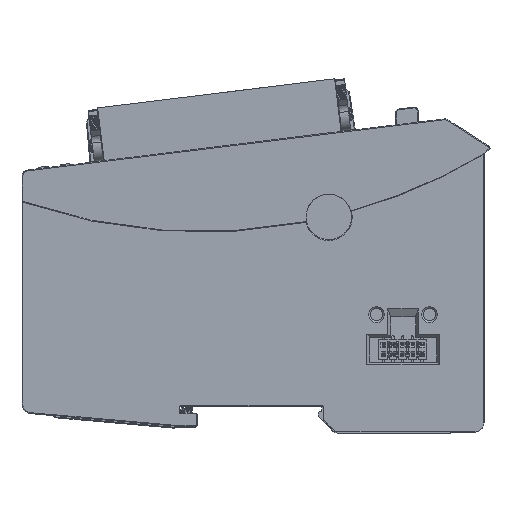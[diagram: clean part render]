
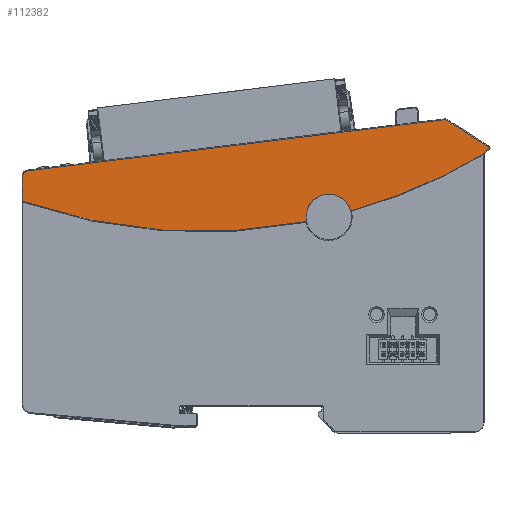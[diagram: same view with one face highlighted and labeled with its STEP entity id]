
A CAD part, top view. The second image highlights one B-rep face of the part: STEP entity #112382.
In plain terms, the highlighted planar face has unit normal (0, 0, 1).
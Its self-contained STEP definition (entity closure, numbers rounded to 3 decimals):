
#112203=AXIS2_PLACEMENT_3D('Circle Axis2P3D',#112201,#112202,$) ;
#112227=AXIS2_PLACEMENT_3D('Circle Axis2P3D',#112225,#112226,$) ;
#112240=AXIS2_PLACEMENT_3D('Plane Axis2P3D',#112237,#112238,#112239) ;
#112244=AXIS2_PLACEMENT_3D('Circle Axis2P3D',#112242,#112243,$) ;
#112253=AXIS2_PLACEMENT_3D('Circle Axis2P3D',#112251,#112252,$) ;
#112286=AXIS2_PLACEMENT_3D('Circle Axis2P3D',#112284,#112285,$) ;
#112318=AXIS2_PLACEMENT_3D('Circle Axis2P3D',#112316,#112317,$) ;
#112325=AXIS2_PLACEMENT_3D('Circle Axis2P3D',#112323,#112324,$) ;
#112361=AXIS2_PLACEMENT_3D('Circle Axis2P3D',#112359,#112360,$) ;
#69085=CARTESIAN_POINT('Vertex',(58.457,157.568,276.406)) ;
#69092=CARTESIAN_POINT('Vertex',(-51.684,144.044,276.406)) ;
#69095=CARTESIAN_POINT('Line Origine',(8.773,151.468,276.406)) ;
#112198=CARTESIAN_POINT('Vertex',(-52.825,142.754,276.406)) ;
#112201=CARTESIAN_POINT('Axis2P3D Location',(-51.525,142.754,276.406)) ;
#112222=CARTESIAN_POINT('Vertex',(59.324,157.368,276.406)) ;
#112225=CARTESIAN_POINT('Axis2P3D Location',(58.616,156.278,276.406)) ;
#112237=CARTESIAN_POINT('Axis2P3D Location',(-53.025,79.881,276.406)) ;
#112242=CARTESIAN_POINT('Axis2P3D Location',(68.875,148.405,276.406)) ;
#112246=CARTESIAN_POINT('Vertex',(68.875,148.505,276.406)) ;
#112248=CARTESIAN_POINT('Vertex',(68.824,148.491,276.406)) ;
#112251=CARTESIAN_POINT('Axis2P3D Location',(69.175,148.492,276.406)) ;
#112255=CARTESIAN_POINT('Vertex',(68.974,148.715,276.406)) ;
#112258=CARTESIAN_POINT('Line Origine',(69.632,149.308,276.406)) ;
#112262=CARTESIAN_POINT('Vertex',(70.291,149.901,276.406)) ;
#112265=CARTESIAN_POINT('Line Origine',(70.248,150.101,276.406)) ;
#112269=CARTESIAN_POINT('Vertex',(70.206,150.301,276.406)) ;
#112272=CARTESIAN_POINT('Line Origine',(64.765,153.835,276.406)) ;
#112277=CARTESIAN_POINT('Line Origine',(-52.825,139.383,276.406)) ;
#112281=CARTESIAN_POINT('Vertex',(-52.825,136.012,276.406)) ;
#112284=CARTESIAN_POINT('Axis2P3D Location',(-5.418,273.043,276.406)) ;
#112288=CARTESIAN_POINT('Vertex',(21.906,130.641,276.406)) ;
#112292=CARTESIAN_POINT('Control Point',(21.906,130.641,276.406)) ;
#112293=CARTESIAN_POINT('Control Point',(21.918,130.643,276.406)) ;
#112294=CARTESIAN_POINT('Control Point',(21.931,130.645,276.406)) ;
#112295=CARTESIAN_POINT('Control Point',(21.944,130.645,276.406)) ;
#112296=CARTESIAN_POINT('Control Point',(21.97,130.644,276.406)) ;
#112297=CARTESIAN_POINT('Control Point',(21.996,130.638,276.406)) ;
#112298=CARTESIAN_POINT('Control Point',(22.008,130.634,276.406)) ;
#112299=CARTESIAN_POINT('Control Point',(22.032,130.625,276.406)) ;
#112300=CARTESIAN_POINT('Control Point',(22.054,130.611,276.406)) ;
#112301=CARTESIAN_POINT('Control Point',(22.065,130.604,276.406)) ;
#112302=CARTESIAN_POINT('Control Point',(22.085,130.587,276.406)) ;
#112303=CARTESIAN_POINT('Control Point',(22.102,130.568,276.406)) ;
#112304=CARTESIAN_POINT('Control Point',(22.109,130.557,276.406)) ;
#112305=CARTESIAN_POINT('Control Point',(22.12,130.54,276.406)) ;
#112306=CARTESIAN_POINT('Control Point',(22.128,130.523,276.406)) ;
#112307=CARTESIAN_POINT('Control Point',(22.13,130.517,276.406)) ;
#112308=CARTESIAN_POINT('Control Point',(22.133,130.508,276.406)) ;
#112309=CARTESIAN_POINT('Control Point',(22.136,130.499,276.406)) ;
#112310=CARTESIAN_POINT('Control Point',(22.137,130.496,276.406)) ;
#112311=CARTESIAN_POINT('Control Point',(22.137,130.493,276.406)) ;
#112312=CARTESIAN_POINT('Control Point',(22.138,130.491,276.406)) ;
#112313=CARTESIAN_POINT('Vertex',(22.138,130.491,276.406)) ;
#112316=CARTESIAN_POINT('Axis2P3D Location',(27.975,131.881,276.406)) ;
#112320=CARTESIAN_POINT('Vertex',(21.975,131.881,276.406)) ;
#112323=CARTESIAN_POINT('Axis2P3D Location',(27.975,131.881,276.406)) ;
#112327=CARTESIAN_POINT('Vertex',(33.769,133.439,276.406)) ;
#112331=CARTESIAN_POINT('Control Point',(33.769,133.439,276.406)) ;
#112332=CARTESIAN_POINT('Control Point',(33.774,133.42,276.406)) ;
#112333=CARTESIAN_POINT('Control Point',(33.779,133.401,276.406)) ;
#112334=CARTESIAN_POINT('Control Point',(33.784,133.382,276.406)) ;
#112335=CARTESIAN_POINT('Control Point',(33.789,133.363,276.406)) ;
#112336=CARTESIAN_POINT('Control Point',(33.794,133.344,276.406)) ;
#112337=CARTESIAN_POINT('Vertex',(33.794,133.344,276.406)) ;
#112341=CARTESIAN_POINT('Control Point',(33.794,133.344,276.406)) ;
#112342=CARTESIAN_POINT('Control Point',(33.791,133.353,276.406)) ;
#112343=CARTESIAN_POINT('Control Point',(33.79,133.363,276.406)) ;
#112344=CARTESIAN_POINT('Control Point',(33.79,133.372,276.406)) ;
#112345=CARTESIAN_POINT('Control Point',(33.792,133.391,276.406)) ;
#112346=CARTESIAN_POINT('Control Point',(33.798,133.408,276.406)) ;
#112347=CARTESIAN_POINT('Control Point',(33.802,133.417,276.406)) ;
#112348=CARTESIAN_POINT('Control Point',(33.812,133.433,276.406)) ;
#112349=CARTESIAN_POINT('Control Point',(33.826,133.446,276.406)) ;
#112350=CARTESIAN_POINT('Control Point',(33.833,133.452,276.406)) ;
#112351=CARTESIAN_POINT('Control Point',(33.844,133.458,276.406)) ;
#112352=CARTESIAN_POINT('Control Point',(33.855,133.462,276.406)) ;
#112353=CARTESIAN_POINT('Control Point',(33.858,133.463,276.406)) ;
#112354=CARTESIAN_POINT('Control Point',(33.861,133.464,276.406)) ;
#112355=CARTESIAN_POINT('Control Point',(33.863,133.465,276.406)) ;
#112356=CARTESIAN_POINT('Vertex',(33.863,133.465,276.406)) ;
#112359=CARTESIAN_POINT('Axis2P3D Location',(-5.418,273.043,276.406)) ;
#69096=DIRECTION('Vector Direction',(-0.993,-0.122,0.)) ;
#112202=DIRECTION('Axis2P3D Direction',(0.,-0.,1.)) ;
#112226=DIRECTION('Axis2P3D Direction',(-0.,0.,1.)) ;
#112238=DIRECTION('Axis2P3D Direction',(0.,0.,1.)) ;
#112239=DIRECTION('Axis2P3D XDirection',(1.,0.,0.)) ;
#112243=DIRECTION('Axis2P3D Direction',(0.,0.,1.)) ;
#112252=DIRECTION('Axis2P3D Direction',(0.,0.,1.)) ;
#112259=DIRECTION('Vector Direction',(0.743,0.669,0.)) ;
#112266=DIRECTION('Vector Direction',(-0.208,0.978,0.)) ;
#112273=DIRECTION('Vector Direction',(0.839,-0.545,0.)) ;
#112278=DIRECTION('Vector Direction',(0.,1.,0.)) ;
#112285=DIRECTION('Axis2P3D Direction',(0.,0.,1.)) ;
#112317=DIRECTION('Axis2P3D Direction',(0.,0.,1.)) ;
#112324=DIRECTION('Axis2P3D Direction',(0.,0.,1.)) ;
#112360=DIRECTION('Axis2P3D Direction',(0.,0.,1.)) ;
#69097=VECTOR('Line Direction',#69096,1.) ;
#112260=VECTOR('Line Direction',#112259,1.) ;
#112267=VECTOR('Line Direction',#112266,1.) ;
#112274=VECTOR('Line Direction',#112273,1.) ;
#112279=VECTOR('Line Direction',#112278,1.) ;
#112365=ORIENTED_EDGE('',*,*,#112250,.F.) ;
#112366=ORIENTED_EDGE('',*,*,#112257,.T.) ;
#112367=ORIENTED_EDGE('',*,*,#112264,.T.) ;
#112368=ORIENTED_EDGE('',*,*,#112271,.F.) ;
#112369=ORIENTED_EDGE('',*,*,#112276,.T.) ;
#112370=ORIENTED_EDGE('',*,*,#112229,.T.) ;
#112371=ORIENTED_EDGE('',*,*,#69099,.T.) ;
#112372=ORIENTED_EDGE('',*,*,#112205,.T.) ;
#112373=ORIENTED_EDGE('',*,*,#112283,.T.) ;
#112374=ORIENTED_EDGE('',*,*,#112290,.T.) ;
#112375=ORIENTED_EDGE('',*,*,#112315,.F.) ;
#112376=ORIENTED_EDGE('',*,*,#112322,.F.) ;
#112377=ORIENTED_EDGE('',*,*,#112329,.F.) ;
#112378=ORIENTED_EDGE('',*,*,#112339,.T.) ;
#112379=ORIENTED_EDGE('',*,*,#112358,.F.) ;
#112380=ORIENTED_EDGE('',*,*,#112363,.T.) ;
#112382=ADVANCED_FACE('K\X2\00F6\X0\rper.2',(#112381),#112241,.T.) ;
#112291=B_SPLINE_CURVE_WITH_KNOTS('',5,(#112292,#112293,#112294,#112295,#112296,#112297,#112298,#112299,#112300,#112301,#112302,#112303,#112304,#112305,#112306,#112307,#112308,#112309,#112310,#112311,#112312),.UNSPECIFIED.,.F.,.U.,(6,3,3,3,3,3,6),(0.,0.091,0.182,0.274,0.365,0.41,0.431),.UNSPECIFIED.) ;
#112330=B_SPLINE_CURVE_WITH_KNOTS('',5,(#112331,#112332,#112333,#112334,#112335,#112336),.UNSPECIFIED.,.F.,.U.,(6,6),(0.,0.14),.UNSPECIFIED.) ;
#112340=B_SPLINE_CURVE_WITH_KNOTS('',5,(#112341,#112342,#112343,#112344,#112345,#112346,#112347,#112348,#112349,#112350,#112351,#112352,#112353,#112354,#112355),.UNSPECIFIED.,.F.,.U.,(6,3,3,3,6),(0.,0.055,0.11,0.166,0.183),.UNSPECIFIED.) ;
#112204=CIRCLE('generated circle',#112203,1.3) ;
#112228=CIRCLE('generated circle',#112227,1.3) ;
#112245=CIRCLE('generated circle',#112244,0.1) ;
#112254=CIRCLE('generated circle',#112253,0.3) ;
#112287=CIRCLE('generated circle',#112286,145.) ;
#112319=CIRCLE('generated circle',#112318,6.) ;
#112326=CIRCLE('generated circle',#112325,6.) ;
#112362=CIRCLE('generated circle',#112361,145.) ;
#69099=EDGE_CURVE('',#69086,#69093,#69098,.T.) ;
#112205=EDGE_CURVE('',#69093,#112199,#112204,.T.) ;
#112229=EDGE_CURVE('',#112223,#69086,#112228,.T.) ;
#112250=EDGE_CURVE('',#112247,#112249,#112245,.T.) ;
#112257=EDGE_CURVE('',#112247,#112256,#112254,.F.) ;
#112264=EDGE_CURVE('',#112256,#112263,#112261,.T.) ;
#112271=EDGE_CURVE('',#112270,#112263,#112268,.F.) ;
#112276=EDGE_CURVE('',#112270,#112223,#112275,.F.) ;
#112283=EDGE_CURVE('',#112199,#112282,#112280,.F.) ;
#112290=EDGE_CURVE('',#112282,#112289,#112287,.T.) ;
#112315=EDGE_CURVE('',#112314,#112289,#112291,.F.) ;
#112322=EDGE_CURVE('',#112321,#112314,#112319,.T.) ;
#112329=EDGE_CURVE('',#112328,#112321,#112326,.T.) ;
#112339=EDGE_CURVE('',#112328,#112338,#112330,.T.) ;
#112358=EDGE_CURVE('',#112357,#112338,#112340,.F.) ;
#112363=EDGE_CURVE('',#112357,#112249,#112362,.T.) ;
#112364=EDGE_LOOP('',(#112365,#112366,#112367,#112368,#112369,#112370,#112371,#112372,#112373,#112374,#112375,#112376,#112377,#112378,#112379,#112380)) ;
#112381=FACE_OUTER_BOUND('',#112364,.T.) ;
#69098=LINE('Line',#69095,#69097) ;
#112261=LINE('Line',#112258,#112260) ;
#112268=LINE('Line',#112265,#112267) ;
#112275=LINE('Line',#112272,#112274) ;
#112280=LINE('Line',#112277,#112279) ;
#112241=PLANE('Plane',#112240) ;
#69086=VERTEX_POINT('',#69085) ;
#69093=VERTEX_POINT('',#69092) ;
#112199=VERTEX_POINT('',#112198) ;
#112223=VERTEX_POINT('',#112222) ;
#112247=VERTEX_POINT('',#112246) ;
#112249=VERTEX_POINT('',#112248) ;
#112256=VERTEX_POINT('',#112255) ;
#112263=VERTEX_POINT('',#112262) ;
#112270=VERTEX_POINT('',#112269) ;
#112282=VERTEX_POINT('',#112281) ;
#112289=VERTEX_POINT('',#112288) ;
#112314=VERTEX_POINT('',#112313) ;
#112321=VERTEX_POINT('',#112320) ;
#112328=VERTEX_POINT('',#112327) ;
#112338=VERTEX_POINT('',#112337) ;
#112357=VERTEX_POINT('',#112356) ;
